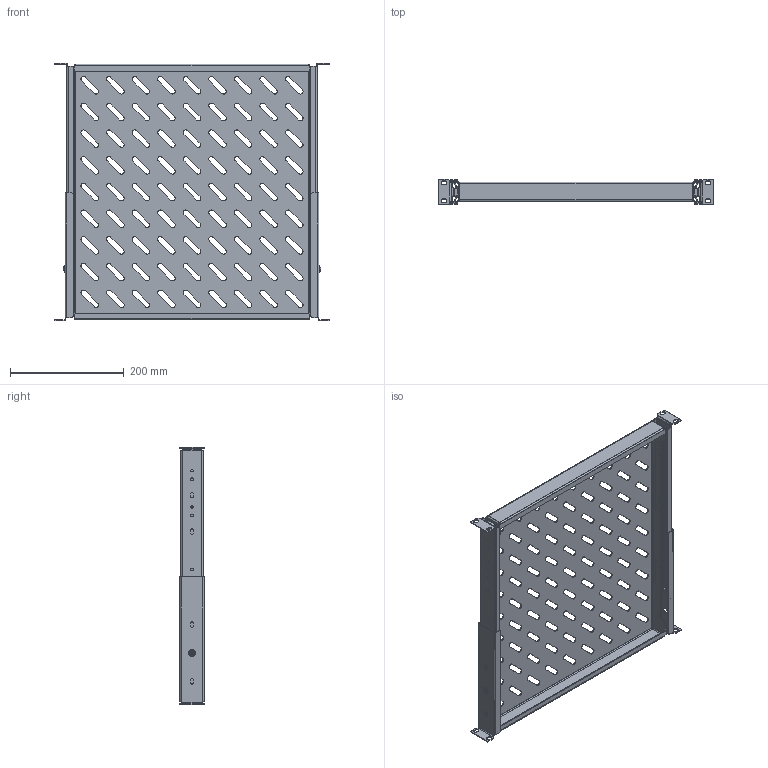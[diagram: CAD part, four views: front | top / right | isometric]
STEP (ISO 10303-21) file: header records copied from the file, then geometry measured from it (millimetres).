
FILE_DESCRIPTION (( 'STEP AP214' ), '1' );
FILE_NAME ('SH 48.45 IÌ Ïîëêà 19'''' âûäâèæíàÿ (500 ìì.).STEP', '2022-08-09T14:00:43', ( '' ), ( '' ), 'SwSTEP 2.0', 'SolidWorks 2018', '' );
FILE_SCHEMA (( 'AUTOMOTIVE_DESIGN' ));
Length unit declared in the file: millimetre
Products named in the file (1): SH 48.45 IÌ Ïîëêà 19'''' âûäâèæíàÿ (500 ìì.)
Bounding box: 482.6 x 43.6 x 452.8 mm (x, y, z)
Volume: 492595.3 mm3; surface area: 774862.1 mm2
Topology: 12 solids, 12 shells, 1211 faces, 3151 edges, 1952 vertices
Faces by surface type: plane 660, cylinder 527, cone 8, torus 8, sphere 4, bspline 4
Entity records: 50973 total; most frequent: DIRECTION 6647, CARTESIAN_POINT 6539, ORIENTED_EDGE 6294, EDGE_CURVE 3147, AXIS2_PLACEMENT_3D 2300, VECTOR 2047, LINE 2047, VERTEX_POINT 1952
